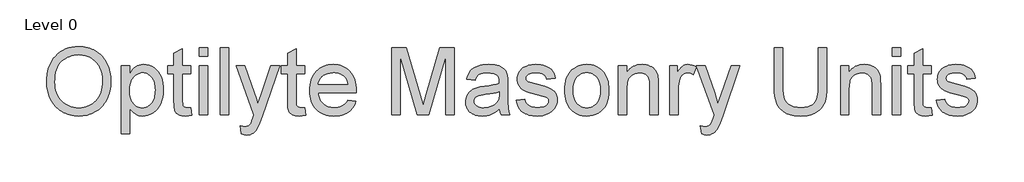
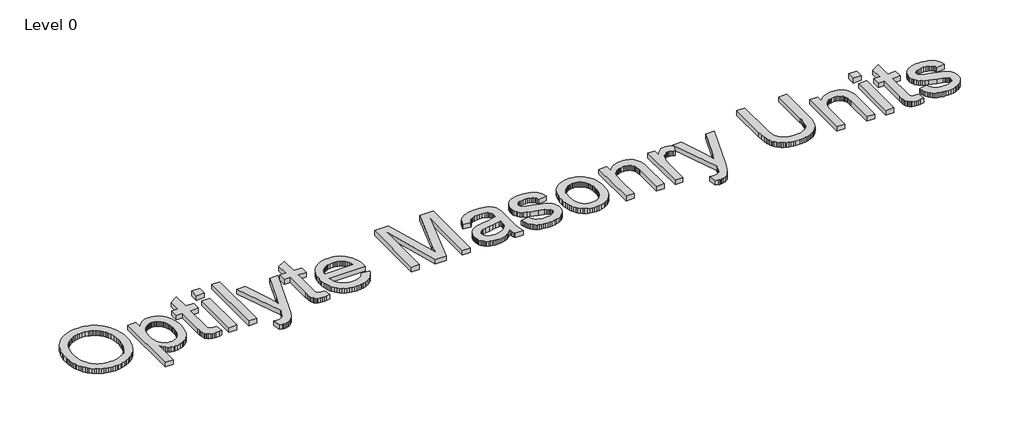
# One storey, part 4 of 4: 1 proxy.
"""IFC4 building model written with IfcOpenShell, lengths in millimetres."""

from ifc_helpers import new_model, si_unit, origin, origin_with_axes, place, context, project, spatial, polyline, outline, extrude, element, save

model = new_model("IFC4")

# Units and contexts
model_context = context("Model", 3, world=origin())
ifc_project = project(units=[si_unit("LENGTHUNIT", "METRE", prefix="MILLI")], contexts=[model_context])

# Site, building, storey
site = spatial("IfcSite", under=ifc_project)
building = spatial("IfcBuilding", under=site)
storey = spatial("IfcBuildingStorey", under=building, Name="Level 0", Elevation=0.0)

# Proxy
placement = place(None, origin())
element("IfcBuildingElementProxy", 1, Name="2000", ObjectType="2000", at=placement, inside=storey, context=model_context, shape_type="SweptSolid", body=[
    extrude(outline(polyline([(-39681.6982349, 28687.2945402), (-39677.6207992, 28805.3982856), (-39665.3884922, 28916.9154042), (-39645.0013139, 29021.8458959), (-39616.4592643, 29120.1897608), (-39579.7623433, 29211.9469989), (-39534.9105511, 29297.1176101), (-39481.9038875, 29375.7015945), (-39420.7423525, 29447.698952), (-39353.1360795, 29512.1089934), (-39280.7952018, 29567.9310292), (-39203.7197193, 29615.1650595), (-39121.9096319, 29653.8110844), (-39035.3649398, 29683.8691037), (-38944.085643, 29705.3391174), (-38848.0717413, 29718.2211257), (-38747.3232349, 29722.5151285), (-38680.6429729, 29720.4988141), (-38615.6205694, 29714.4498711), (-38552.2560244, 29704.3682994), (-38490.5493378, 29690.2540991), (-38430.5005097, 29672.10727), (-38372.10954, 29649.9278123), (-38315.3764288, 29623.7157259), (-38260.3011761, 29593.4710108), (-38207.667904, 29559.6193334), (-38158.2607349, 29522.5863601), (-38112.0796687, 29482.3720908), (-38069.1247055, 29438.9765255), (-38029.3958452, 29392.3996643), (-37992.8930878, 29342.6415072), (-37959.6164334, 29289.702054), (-37929.5658819, 29233.5813049), (-37902.9057257, 29174.8990899), (-37879.8002569, 29114.2752388), (-37860.2494757, 29051.7097516), (-37844.2533819, 28987.2026285), (-37831.8119757, 28920.7538693), (-37822.9252569, 28852.3634741), (-37817.5932257, 28782.0314428), (-37815.8158819, 28709.7577755), (-37817.6865736, 28636.5356937), (-37823.2986485, 28565.2701836), (-37832.6521067, 28495.9612452), (-37845.7469481, 28428.6088785), (-37862.5831728, 28363.2130834), (-37883.1607808, 28299.7738601), (-37907.4797721, 28238.2912084), (-37935.5401466, 28178.7651285), (-37967.0319895, 28121.9946781), (-38001.6453856, 28068.7789152), (-38039.3803351, 28019.1178399), (-38080.2368378, 27973.011452), (-38124.2148939, 27930.4597516), (-38171.3145033, 27891.4627388), (-38221.5356659, 27856.0204134), (-38274.8783819, 27824.1327755), (-38330.3232923, 27795.9043748), (-38386.8510382, 27771.4397608), (-38444.4616195, 27750.7389336), (-38503.1550363, 27733.8018932), (-38562.9312886, 27720.6286395), (-38623.7903764, 27711.2191726), (-38685.7322997, 27705.5734924), (-38748.7570584, 27703.6915991), (-38816.6695125, 27705.77139), (-38882.7598158, 27712.0107627), (-38947.0279683, 27722.4097172), (-39009.4739702, 27736.9682535), (-39070.0978213, 27755.6863716), (-39128.8995216, 27778.5640715), (-39185.8790713, 27805.6013532), (-39241.0364702, 27836.7982167), (-39293.6398709, 27871.5908408), (-39342.9574261, 27909.4154042), (-39388.9891356, 27950.271907), (-39431.7349996, 27994.1603491), (-39471.195018, 28041.0807305), (-39507.3691908, 28091.0330513), (-39540.257518, 28144.0173114), (-39569.8599996, 28200.0335108), (-39596.072086, 28257.9876124), (-39618.7892275, 28316.7855788), (-39638.0114242, 28376.4274102), (-39653.7386761, 28436.9131064), (-39665.970983, 28498.2426675), (-39674.7083452, 28560.4160935), (-39679.9507625, 28623.4333845), (-39681.6982349, 28687.2945402)]), holes=[polyline([(-39436.9923525, 28684.9048344), (-39433.9342758, 28601.5115669), (-39424.7600455, 28522.6736763), (-39409.4696618, 28448.3911625), (-39388.0631246, 28378.6640255), (-39360.5404339, 28313.4922654), (-39326.9015897, 28252.8758822), (-39287.146592, 28196.8148757), (-39241.2754408, 28145.3092461), (-39190.7891701, 28099.1580513), (-39137.1888139, 28059.1603491), (-39080.4743723, 28025.3161395), (-39020.6458452, 27997.6254226), (-38957.7032326, 27976.0881983), (-38891.6465345, 27960.7044667), (-38822.475751, 27951.4742277), (-38750.1908819, 27948.3974814), (-38676.5842068, 27951.5040991), (-38606.3156522, 27960.823952), (-38539.3852179, 27976.3570402), (-38475.792904, 27998.1033638), (-38415.5387105, 28026.0629226), (-38358.6226375, 28060.2357167), (-38305.0446848, 28100.6217461), (-38254.8048525, 28147.2210108), (-38209.2697537, 28199.5331662), (-38169.8060014, 28257.0578674), (-38136.4135956, 28319.7951147), (-38109.0925363, 28387.7449079), (-38087.8428236, 28460.907247), (-38072.6644573, 28539.2821322), (-38063.5574375, 28622.8695632), (-38060.5217643, 28711.6695402), (-38065.7193746, 28823.6571322), (-38081.3122055, 28928.2963785), (-38107.3002569, 29025.5872792), (-38143.683529, 29115.5298344), (-38165.672557, 29157.450503), (-38190.0587588, 29196.9441266), (-38216.8421342, 29234.0107052), (-38246.0226834, 29268.6502388), (-38277.6004063, 29300.8627273), (-38311.5753029, 29330.6481708), (-38347.9473732, 29358.0065692), (-38386.7166172, 29382.9379226), (-38427.3005442, 29405.173389), (-38469.1166632, 29424.4441266), (-38512.1649743, 29440.7501354), (-38556.4454775, 29454.0914152), (-38648.7030602, 29471.8797884), (-38745.8894113, 29477.8092461), (-38815.3925134, 29474.9528008), (-38882.4312312, 29466.3834649), (-38947.0055648, 29452.1012383), (-39009.1155143, 29432.1061211), (-39068.7610795, 29406.3981133), (-39125.9422606, 29374.9772149), (-39180.6590575, 29337.8434258), (-39232.9114702, 29294.9967461), (-39280.742927, 29245.4738256), (-39322.1968562, 29188.3113141), (-39357.2732579, 29123.5092117), (-39385.9721319, 29051.0675182), (-39408.2934784, 28970.9862337), (-39424.2372974, 28883.2653583), (-39433.8035887, 28787.9048918), (-39436.9923525, 28684.9048344)])]), origin_with_axes(), (0.0, 0.0, 1.0), 150.0),
    extrude(outline(polyline([(-37509.933529, 27183.6915991), (-37509.933529, 29171.9268932), (-37265.2276466, 29171.9268932), (-37265.2276466, 28932.0004226), (-37226.5144113, 28995.4023068), (-37185.4114702, 29050.3506064), (-37141.9188231, 29096.8453215), (-37096.0364702, 29134.886452), (-37046.4500731, 29164.473998), (-36991.8452937, 29185.6079594), (-36932.2221319, 29198.2883362), (-36867.5805878, 29202.5151285), (-36782.2382165, 29196.6006064), (-36702.0934555, 29178.8570402), (-36663.9701788, 29165.5493656), (-36627.1463047, 29149.2844299), (-36591.6218332, 29130.0622333), (-36557.3967643, 29107.8827755), (-36524.8519573, 29083.0148987), (-36494.3682716, 29055.7274447), (-36439.5842643, 28993.8938049), (-36393.0447422, 28922.3818564), (-36354.7497055, 28841.1915991), (-36324.8485106, 28753.101066), (-36303.4905143, 28660.8882902), (-36290.6757165, 28564.5532719), (-36286.4041172, 28464.0960108), (-36291.228336, 28356.6936671), (-36305.7009922, 28254.8175182), (-36329.822086, 28158.4675641), (-36363.5916172, 28067.6438049), (-36406.5465805, 27984.7210108), (-36431.294972, 27947.1130145), (-36458.2239702, 27912.073952), (-36487.333575, 27879.6038233), (-36518.6237863, 27849.7026285), (-36552.0946044, 27822.3703674), (-36587.746029, 27797.6070402), (-36662.2003029, 27756.5190347), (-36738.5962128, 27727.1704594), (-36816.9337588, 27709.5613141), (-36897.2129408, 27703.6915991), (-36954.9691448, 27707.6196781), (-37009.7083452, 27719.4039152), (-37061.4305419, 27739.0443105), (-37110.1357349, 27766.5408638), (-37155.2264977, 27800.0415531), (-37196.105404, 27837.6943564), (-37232.7724536, 27879.4992737), (-37265.2276466, 27925.4563049), (-37265.2276466, 27183.6915991), (-37509.933529, 27183.6915991)]), holes=[polyline([(-37265.2276466, 28441.6327755), (-37263.5735221, 28380.6056616), (-37258.6111485, 28323.7007902), (-37250.3405258, 28270.9181616), (-37238.761654, 28222.2577755), (-37223.8745331, 28177.7196322), (-37205.6791632, 28137.3037314), (-37184.1755442, 28101.0100733), (-37159.3636761, 28068.8386579), (-37132.1919734, 28040.6102572), (-37103.6088507, 28016.1456432), (-37073.6143079, 27995.444816), (-37042.2083452, 27978.5077755), (-37009.3909624, 27965.3345219), (-36975.1621595, 27955.9250549), (-36939.5219366, 27950.2793748), (-36902.4702937, 27948.3974814), (-36864.9183061, 27950.3465853), (-36828.7329316, 27956.1938969), (-36793.9141701, 27965.9394162), (-36760.4620216, 27979.5831432), (-36728.3764863, 27997.1250779), (-36697.6575639, 28018.5652204), (-36668.3052546, 28043.9035706), (-36640.3195584, 28073.1401285), (-36614.7235681, 28106.4690577), (-36592.5403764, 28144.0845219), (-36573.7699835, 28185.9865209), (-36558.4123893, 28232.1750549), (-36546.4675938, 28282.6501239), (-36537.935597, 28337.4117277), (-36532.8163989, 28396.4598665), (-36531.1099996, 28459.7945402), (-36532.7753259, 28520.2092921), (-36537.7713047, 28576.7109005), (-36546.0979362, 28629.2993656), (-36557.7552202, 28677.9746873), (-36572.7431568, 28722.7368656), (-36591.0617459, 28763.5859005), (-36612.7109876, 28800.5217921), (-36637.6908819, 28833.5445402), (-36664.9858038, 28862.6690807), (-36693.5801283, 28887.9103491), (-36723.4738553, 28909.2683454), (-36754.6669849, 28926.7430697), (-36787.159517, 28940.3345219), (-36820.9514518, 28950.042702), (-36856.0427891, 28955.8676101), (-36892.433529, 28957.8092461), (-36928.5890322, 28955.7443909), (-36963.6915713, 28949.5498252), (-36997.7411462, 28939.225549), (-37030.7377569, 28924.7715623), (-37062.6814035, 28906.1878651), (-37093.572086, 28883.4744575), (-37123.4098043, 28856.6313394), (-37152.1945584, 28825.6585108), (-37178.6866885, 28790.7501354), (-37201.6465345, 28752.1003766), (-37221.0740966, 28709.7092346), (-37236.9693746, 28663.5767094), (-37249.3323686, 28613.7028008), (-37258.1630786, 28560.087509), (-37263.4615046, 28502.7308339), (-37265.2276466, 28441.6327755)])]), origin_with_axes(), (0.0, 0.0, 1.0), 150.0),
    extrude(outline(polyline([(-35491.1099996, 27938.3607167), (-35460.5217643, 27727.1107167), (-35557.4243378, 27709.5463785), (-35643.5732349, 27703.6915991), (-35706.0341724, 27706.2306616), (-35761.027279, 27713.8478491), (-35808.5525547, 27726.5431616), (-35848.6099996, 27744.3165991), (-35882.2451099, 27766.2122792), (-35910.5033819, 27791.2743197), (-35933.3848158, 27819.5027204), (-35950.8894113, 27850.8974814), (-35963.8535658, 27892.9861763), (-35973.1136761, 27953.2963785), (-35978.6697422, 28031.828088), (-35980.5217643, 28128.5813049), (-35980.5217643, 28927.2210108), (-36164.0511761, 28927.2210108), (-36164.0511761, 29171.9268932), (-35980.5217643, 29171.9268932), (-35980.5217643, 29521.3018932), (-35735.8158819, 29665.1621873), (-35735.8158819, 29171.9268932), (-35491.1099996, 29171.9268932), (-35491.1099996, 28927.2210108), (-35735.8158819, 28927.2210108), (-35735.8158819, 28135.7504226), (-35732.589779, 28055.2173344), (-35728.5571503, 28028.0344299), (-35722.9114702, 28009.573952), (-35706.0043011, 27984.3028123), (-35681.0916172, 27964.886452), (-35645.7837128, 27952.5197241), (-35597.6908819, 27948.3974814), (-35550.9721319, 27945.8882902), (-35491.1099996, 27938.3607167)])), origin_with_axes(), (0.0, 0.0, 1.0), 150.0),
    extrude(outline(polyline([(-35246.4041172, 27734.2798344), (-35246.4041172, 29171.9268932), (-35001.6982349, 29171.9268932), (-35001.6982349, 27734.2798344), (-35246.4041172, 27734.2798344)])), origin_with_axes(), (0.0, 0.0, 1.0), 150.0),
    extrude(outline(polyline([(-35246.4041172, 29447.2210108), (-35246.4041172, 29691.9268932), (-35001.6982349, 29691.9268932), (-35001.6982349, 29447.2210108), (-35246.4041172, 29447.2210108)])), origin_with_axes(), (0.0, 0.0, 1.0), 150.0),
    extrude(outline(polyline([(-34634.6394113, 27734.2798344), (-34634.6394113, 29691.9268932), (-34389.933529, 29691.9268932), (-34389.933529, 27734.2798344), (-34634.6394113, 27734.2798344)])), origin_with_axes(), (0.0, 0.0, 1.0), 150.0),
    extrude(outline(polyline([(-34022.8747055, 27183.6915991), (-34053.4629408, 27419.3165991), (-33986.7901466, 27403.1860844), (-33929.1982349, 27397.8092461), (-33894.6968562, 27399.4969759), (-33863.839779, 27404.5601652), (-33836.6270033, 27412.9988141), (-33813.058529, 27424.8129226), (-33792.2979591, 27439.6440347), (-33773.5088966, 27457.1336947), (-33741.8452937, 27500.0886579), (-33714.8416172, 27563.2963785), (-33674.933529, 27680.2724814), (-33655.8158819, 27739.5371873), (-34175.8158819, 29171.9268932), (-33917.7276466, 29171.9268932), (-33641.9555878, 28373.7651285), (-33591.1743378, 28217.9563049), (-33545.8894113, 28054.5004226), (-33449.8232349, 28336.4857167), (-33166.4041172, 29171.9268932), (-32910.2276466, 29171.9268932), (-33410.6320584, 27699.8680697), (-33484.9519113, 27504.1511579), (-33540.6320584, 27380.6033638), (-33572.8034738, 27325.7297424), (-33607.1853672, 27278.6824079), (-33643.7777386, 27239.4613601), (-33682.5805878, 27208.0665991), (-33724.4303121, 27184.0201836), (-33770.1633084, 27166.8441726), (-33819.7795768, 27156.538566), (-33873.2791172, 27153.1033638), (-33907.7207533, 27155.0151285), (-33944.1338966, 27160.7504226), (-34022.8747055, 27183.6915991)])), origin_with_axes(), (0.0, 0.0, 1.0), 150.0),
    extrude(outline(polyline([(-32187.5805878, 27938.3607167), (-32156.9923525, 27727.1107167), (-32253.8949261, 27709.5463785), (-32340.0438231, 27703.6915991), (-32402.5047606, 27706.2306616), (-32457.4978672, 27713.8478491), (-32505.023143, 27726.5431616), (-32545.0805878, 27744.3165991), (-32578.7156981, 27766.2122792), (-32606.9739702, 27791.2743197), (-32629.855404, 27819.5027204), (-32647.3599996, 27850.8974814), (-32660.324154, 27892.9861763), (-32669.5842643, 27953.2963785), (-32675.1403305, 28031.828088), (-32676.9923525, 28128.5813049), (-32676.9923525, 28927.2210108), (-32860.5217643, 28927.2210108), (-32860.5217643, 29171.9268932), (-32676.9923525, 29171.9268932), (-32676.9923525, 29521.3018932), (-32432.2864702, 29665.1621873), (-32432.2864702, 29171.9268932), (-32187.5805878, 29171.9268932), (-32187.5805878, 28927.2210108), (-32432.2864702, 28927.2210108), (-32432.2864702, 28135.7504226), (-32429.0603672, 28055.2173344), (-32425.0277386, 28028.0344299), (-32419.3820584, 28009.573952), (-32402.4748893, 27984.3028123), (-32377.5622055, 27964.886452), (-32342.2543011, 27952.5197241), (-32294.1614702, 27948.3974814), (-32247.4427202, 27945.8882902), (-32187.5805878, 27938.3607167)])), origin_with_axes(), (0.0, 0.0, 1.0), 150.0),
    extrude(outline(polyline([(-30936.3305878, 28162.5151285), (-30696.4041172, 28131.9268932), (-30713.1880671, 28082.4525136), (-30733.1906522, 28035.8308454), (-30756.4118723, 27992.0618886), (-30782.8517275, 27951.1456432), (-30812.5102179, 27913.0821092), (-30845.3873433, 27877.8712866), (-30881.4831039, 27845.5131754), (-30920.7974996, 27816.0077755), (-30963.1363668, 27789.6836717), (-31008.3055419, 27766.8694483), (-31056.3050249, 27747.5651055), (-31107.1348158, 27731.7706432), (-31160.7949146, 27719.4860614), (-31217.2853213, 27710.7113601), (-31276.6060359, 27705.4465393), (-31338.7570584, 27703.6915991), (-31416.7436163, 27706.7198045), (-31490.5929959, 27715.8044208), (-31560.3051972, 27730.9454479), (-31625.8802202, 27752.1428858), (-31687.3180648, 27779.3967346), (-31744.6187312, 27812.7069943), (-31797.7822193, 27852.0736648), (-31846.808529, 27897.4967461), (-31890.831392, 27948.3862797), (-31928.98454, 28004.1523068), (-31961.2679729, 28064.7948275), (-31987.6816908, 28130.3138417), (-32008.2256935, 28200.7093495), (-32022.8999812, 28275.9813509), (-32031.7045538, 28356.1298458), (-32034.6394113, 28441.1548344), (-32031.6746825, 28529.0736073), (-32022.7804959, 28611.929191), (-32007.9568516, 28689.7215853), (-31987.2037496, 28762.4507902), (-31960.5211898, 28830.1168059), (-31927.9091724, 28892.7196322), (-31889.3676972, 28950.2592691), (-31844.8967643, 29002.7357167), (-31795.6986944, 29049.5590163), (-31742.9758084, 29090.1392094), (-31686.7281062, 29124.4762958), (-31626.9555878, 29152.5702755), (-31563.6582533, 29174.4211487), (-31496.8361025, 29190.0289152), (-31426.4891356, 29199.3935752), (-31352.6173525, 29202.5151285), (-31281.1614127, 29199.401043), (-31213.0435933, 29190.0587866), (-31148.2638943, 29174.4883592), (-31086.8223158, 29152.6897608), (-31028.7188576, 29124.6629915), (-30973.9535198, 29090.4080513), (-30922.5263024, 29049.9249401), (-30874.4372055, 29003.2136579), (-30830.918421, 28950.8566956), (-30793.2021411, 28893.4365439), (-30761.2883659, 28830.9532029), (-30735.1770952, 28763.4066726), (-30714.8683291, 28690.7969529), (-30700.3620676, 28613.1240439), (-30691.6583107, 28530.3879456), (-30688.7570584, 28442.5886579), (-30690.1908819, 28376.6327755), (-31789.933529, 28376.6327755), (-31784.5977638, 28326.2921276), (-31775.759586, 28278.9834189), (-31763.4189954, 28234.7066496), (-31747.5759922, 28193.4618197), (-31728.2305763, 28155.248929), (-31705.3827477, 28120.0679777), (-31679.0325065, 28087.9189658), (-31649.1798525, 28058.8018932), (-31616.6014403, 28032.9258592), (-31582.0739242, 28010.499963), (-31545.5973043, 27991.5242048), (-31507.1715805, 27975.9985844), (-31466.7967528, 27963.9231018), (-31424.4728213, 27955.2977572), (-31380.1997859, 27950.1225504), (-31333.9776466, 27948.3974814), (-31266.2892275, 27951.593713), (-31203.7386761, 27961.1824079), (-31146.3259922, 27977.163566), (-31094.0511761, 27999.5371873), (-31046.9142275, 28028.9006983), (-31004.9151466, 28065.8515255), (-30968.0539334, 28110.3896689), (-30936.3305878, 28162.5151285)]), holes=[polyline([(-31789.933529, 28621.3386579), (-30933.4629408, 28621.3386579), (-30946.038768, 28690.5803858), (-30966.5603672, 28750.6217461), (-30995.0277386, 28801.4627388), (-31031.4408819, 28843.1033638), (-31063.6571044, 28869.9875549), (-31098.1734187, 28893.2871873), (-31134.989825, 28913.0022608), (-31174.1063231, 28929.1327755), (-31215.5229132, 28941.6787314), (-31259.2395952, 28950.6401285), (-31305.2563691, 28956.0169667), (-31353.5732349, 28957.8092461), (-31439.6175823, 28952.0888877), (-31518.5226834, 28934.9278123), (-31555.2980166, 28922.0570058), (-31590.2885382, 28906.32602), (-31623.4942482, 28887.734855), (-31654.9151466, 28866.2835108), (-31683.7372399, 28842.4349929), (-31709.1465345, 28816.6523068), (-31731.1430304, 28788.9354525), (-31749.7267275, 28759.2844299), (-31764.897626, 28727.6992392), (-31776.6557257, 28694.1798803), (-31785.0010267, 28658.7263532), (-31789.933529, 28621.3386579)])]), origin_with_axes(), (0.0, 0.0, 1.0), 150.0),
    extrude(outline(polyline([(-29648.7570584, 27734.2798344), (-29648.7570584, 29691.9268932), (-29227.6908819, 29691.9268932), (-28827.1761761, 28312.1107167), (-28746.4041172, 28023.9121873), (-28658.9408819, 28336.0077755), (-28265.1173525, 29691.9268932), (-27844.0511761, 29691.9268932), (-27844.0511761, 27734.2798344), (-28088.7570584, 27734.2798344), (-28088.7570584, 29447.2210108), (-28580.558529, 27734.2798344), (-28912.2497055, 27734.2798344), (-29404.0511761, 29447.2210108), (-29404.0511761, 27734.2798344), (-29648.7570584, 27734.2798344)])), origin_with_axes(), (0.0, 0.0, 1.0), 150.0),
    extrude(outline(polyline([(-26528.7570584, 27917.8092461), (-26586.7821044, 27863.3538233), (-26645.6734187, 27817.5610844), (-26705.4310014, 27780.4310292), (-26766.0548525, 27751.9636579), (-26828.2320125, 27730.8446322), (-26892.6495216, 27715.7596138), (-26959.3073801, 27706.7086027), (-27028.2055878, 27703.6915991), (-27084.3599421, 27705.506282), (-27137.1612404, 27710.9503307), (-27186.6094826, 27720.0237452), (-27232.7046687, 27732.7265255), (-27275.4467988, 27749.0586717), (-27314.8358727, 27769.0201836), (-27350.8718907, 27792.6110614), (-27383.5548525, 27819.8313049), (-27412.6233842, 27849.8743886), (-27437.8161117, 27881.9337866), (-27459.133035, 27916.0094989), (-27476.574154, 27952.1015255), (-27490.1394688, 27990.2098665), (-27499.8289794, 28030.3345219), (-27505.6426857, 28072.4754915), (-27507.5805878, 28116.6327755), (-27504.6531981, 28168.5192645), (-27495.871029, 28218.0757902), (-27481.2340805, 28265.3023527), (-27460.7423525, 28310.198952), (-27435.4861485, 28351.7798344), (-27406.5557716, 28389.0592461), (-27373.951222, 28422.0371873), (-27337.6724996, 28450.7136579), (-27298.3767735, 28475.6263417), (-27256.7212128, 28497.3129226), (-27212.7058176, 28515.7734005), (-27166.3305878, 28531.0077755), (-27078.2699261, 28549.7669667), (-26954.6026466, 28567.8092461), (-26820.0024628, 28586.3294667), (-26704.4004408, 28606.5224814), (-26607.7965805, 28628.3882902), (-26530.1908819, 28651.9268932), (-26528.7570584, 28706.4121873), (-26532.968915, 28765.7366358), (-26545.6044849, 28815.6217461), (-26566.663768, 28856.0675182), (-26596.1467643, 28887.073952), (-26620.2379867, 28903.6525366), (-26647.1072422, 28918.0206432), (-26709.1798525, 28940.1254226), (-26782.3645952, 28953.3882902), (-26866.6614702, 28957.8092461), (-26945.0438231, 28954.8669208), (-27012.433529, 28946.0399447), (-27068.8305878, 28931.3283178), (-27114.2349996, 28910.7320402), (-27151.5442827, 28882.6380605), (-27183.6559555, 28845.433327), (-27210.570018, 28799.1178399), (-27232.2864702, 28743.6915991), (-27476.9923525, 28774.2798344), (-27458.3675823, 28844.7761579), (-27434.5153305, 28908.1033638), (-27405.435597, 28964.261452), (-27371.1283819, 29013.2504226), (-27330.1150547, 29056.0560292), (-27280.9169849, 29093.6640255), (-27223.5341724, 29126.0744116), (-27157.9666172, 29153.2871873), (-27085.5435933, 29174.8244116), (-27007.5943746, 29190.2081432), (-26924.118961, 29199.4383822), (-26835.1173525, 29202.5151285), (-26748.1171227, 29199.796838), (-26669.6899628, 29191.6419667), (-26599.8358727, 29178.0505145), (-26538.5548525, 29159.0224814), (-26485.3390897, 29135.8871413), (-26439.6807716, 29109.9737682), (-26401.5798985, 29081.2823619), (-26371.0364702, 29049.8129226), (-26346.273143, 29014.7887958), (-26325.5125731, 28975.433327), (-26308.7547606, 28931.7465163), (-26295.9997055, 28883.7283638), (-26287.0383084, 28799.1327755), (-26284.0511761, 28669.6107167), (-26284.0511761, 28365.1621873), (-26280.9445584, 28099.964577), (-26271.6247055, 27940.0335108), (-26253.2239702, 27834.9461947), (-26239.542904, 27784.060395), (-26222.8747055, 27734.2798344), (-26467.5805878, 27734.2798344), (-26489.3269113, 27775.1438049), (-26506.7717643, 27819.3533638), (-26519.9151466, 27866.9085108), (-26528.7570584, 27917.8092461)]), holes=[polyline([(-26528.7570584, 28407.2210108), (-26602.7184555, 28386.0422424), (-26693.1688231, 28366.4765255), (-26800.1081613, 28348.5238601), (-26923.5364702, 28332.1842461), (-27050.4895952, 28313.4250549), (-27134.0695584, 28292.5151285), (-27163.2389058, 28280.2380145), (-27188.8535658, 28265.3919667), (-27210.9135382, 28247.9769851), (-27229.4188231, 28227.9930697), (-27244.0557716, 28206.1571322), (-27254.5107349, 28183.1860844), (-27260.7837128, 28159.0799263), (-27262.8747055, 28133.8386579), (-27258.3193286, 28095.812463), (-27244.6531981, 28061.0721138), (-27221.8763139, 28029.6176101), (-27189.9886761, 28001.448952), (-27149.2889977, 27978.2389336), (-27100.0759922, 27961.6603491), (-27042.3496595, 27951.7131983), (-26976.1099996, 27948.3974814), (-26908.4813231, 27952.0567185), (-26844.6761761, 27963.0344299), (-26784.6945584, 27981.3306156), (-26728.5364702, 28006.9452755), (-26677.8747055, 28037.7575458), (-26634.3820584, 28071.6465623), (-26598.058529, 28108.6123252), (-26568.9041172, 28148.6548344), (-26551.9670768, 28184.5004226), (-26539.8691908, 28227.9930697), (-26532.6104591, 28279.1327755), (-26530.1908819, 28337.9195402), (-26528.7570584, 28407.2210108)])]), origin_with_axes(), (0.0, 0.0, 1.0), 150.0),
    extrude(outline(polyline([(-26039.3452937, 28162.5151285), (-25794.6394113, 28193.1033638), (-25779.8531062, 28137.3037314), (-25756.0456613, 28088.4342461), (-25723.2170768, 28046.4949079), (-25681.3673525, 28011.4857167), (-25630.3770033, 27983.8846138), (-25570.1265437, 27964.1695402), (-25500.6159738, 27952.3404961), (-25421.8452937, 27948.3974814), (-25343.1642275, 27952.0119116), (-25275.3563231, 27962.855202), (-25218.4215805, 27980.9273527), (-25172.3599996, 28006.2283638), (-25136.8131246, 28036.3984005), (-25111.4224996, 28069.0776285), (-25096.1881246, 28104.2660476), (-25091.1099996, 28141.9636579), (-25096.2179959, 28175.0013417), (-25111.5419849, 28204.3349814), (-25137.0819665, 28229.964577), (-25172.8379408, 28251.8901285), (-25210.0874812, 28266.4673344), (-25264.4831613, 28282.9563049), (-25424.7129408, 28321.6695402), (-25648.0309555, 28386.2513417), (-25730.3861944, 28415.0024906), (-25793.2055878, 28441.3938049), (-25843.0458911, 28469.0397149), (-25886.4638599, 28501.5546505), (-25923.4594941, 28538.9386119), (-25954.0327937, 28581.1915991), (-25977.9746595, 28627.0440807), (-25995.0759922, 28675.2265255), (-26005.3367919, 28725.7389336), (-26008.7570584, 28778.5813049), (-26006.0088966, 28826.8981708), (-25997.7644113, 28873.3928858), (-25984.0236025, 28918.0654502), (-25964.7864702, 28960.9158638), (-25940.7997974, 29001.0778583), (-25912.8103672, 29037.6851652), (-25880.8181797, 29070.7377847), (-25844.8232349, 29100.2357167), (-25813.5927661, 29120.712509), (-25777.2543011, 29139.6061211), (-25735.8078397, 29156.9165531), (-25689.2533819, 29172.6438049), (-25639.263722, 29185.712509), (-25587.511654, 29195.0472976), (-25533.9971779, 29200.6481708), (-25478.7202937, 29202.5151285), (-25396.48454, 29199.5130605), (-25319.4463966, 29190.5068564), (-25247.6058636, 29175.4965163), (-25180.9629408, 29154.4820402), (-25121.1008084, 29128.3446322), (-25069.6026466, 29097.9654961), (-25026.4684555, 29063.3446322), (-24991.6982349, 29024.4820402), (-24963.4997055, 28980.0185752), (-24940.0805878, 28928.5950917), (-24921.4408819, 28870.2115899), (-24907.5805878, 28804.8680697), (-25152.2864702, 28774.2798344), (-25163.951222, 28815.1587406), (-25183.1734187, 28851.2881064), (-25209.9530602, 28882.6679318), (-25244.2901466, 28909.2982167), (-25286.3340345, 28930.5217921), (-25336.2340805, 28945.6814888), (-25393.9902845, 28954.7773068), (-25459.6026466, 28957.8092461), (-25535.714779, 28954.9117277), (-25600.1173525, 28946.2191726), (-25652.8103672, 28931.7315807), (-25693.7938231, 28911.448952), (-25724.531415, 28887.3129226), (-25746.4868378, 28861.2651285), (-25759.6600915, 28833.3055697), (-25764.0511761, 28803.4342461), (-25762.2290253, 28784.1074998), (-25756.7625731, 28765.7963785), (-25747.6518194, 28748.5008822), (-25734.8967643, 28732.2210108), (-25718.2584371, 28716.4788233), (-25697.4978672, 28702.230202), (-25643.6099996, 28678.2136579), (-25432.8379408, 28626.1180697), (-25216.6293011, 28562.1934373), (-25135.9916632, 28534.9806616), (-25073.6651466, 28510.9342461), (-25023.3618378, 28485.9319483), (-24978.7938231, 28455.8515255), (-24939.9611025, 28420.6929777), (-24906.8636761, 28380.4563049), (-24880.4126191, 28335.0817645), (-24861.5190069, 28284.5096138), (-24850.1828397, 28228.7398527), (-24846.4041172, 28167.7724814), (-24850.8400088, 28106.5362682), (-24864.1476834, 28047.0923344), (-24886.3271411, 27989.4406799), (-24917.3783819, 27933.5813049), (-24956.7935933, 27881.739623), (-25004.0649628, 27836.1410476), (-25059.1924904, 27796.7855788), (-25122.1761761, 27763.6732167), (-25191.2984187, 27737.431259), (-25264.8416172, 27718.6870035), (-25342.8057716, 27707.4404502), (-25425.1908819, 27703.6915991), (-25493.1257395, 27705.4988141), (-25556.8935474, 27710.9204594), (-25616.4943057, 27719.9565347), (-25671.9280143, 27732.6070402), (-25723.1946733, 27748.8719759), (-25770.2942827, 27768.7513417), (-25813.2268424, 27792.2451377), (-25851.9923525, 27819.3533638), (-25887.0164794, 27850.0162774), (-25918.7248893, 27884.1741358), (-25947.1175823, 27921.8269391), (-25972.1945584, 27962.9746873), (-25993.9558176, 28007.6173803), (-26012.4013599, 28055.7550182), (-26027.5311852, 28107.3876009), (-26039.3452937, 28162.5151285)])), origin_with_axes(), (0.0, 0.0, 1.0), 150.0),
    extrude(outline(polyline([(-24632.2864702, 28453.1033638), (-24628.9782211, 28549.4159787), (-24619.0534738, 28639.2913233), (-24602.5122284, 28722.7293978), (-24579.3544849, 28799.730202), (-24549.5802432, 28870.293736), (-24513.1895033, 28934.4199998), (-24470.1822652, 28992.1089934), (-24420.558529, 29043.3607167), (-24375.1391816, 29080.662532), (-24327.3002569, 29112.9907719), (-24277.0417551, 29140.3454364), (-24224.3636761, 29162.7265255), (-24169.2660198, 29180.1340393), (-24111.7487863, 29192.5679777), (-24051.8119757, 29200.0283408), (-23989.4555878, 29202.5151285), (-23920.3370791, 29199.4869231), (-23854.4521411, 29190.4023068), (-23791.8007739, 29175.2612797), (-23732.3829775, 29154.0638417), (-23676.1987519, 29126.8099929), (-23623.248097, 29093.4997333), (-23573.5310129, 29054.1330628), (-23527.0474996, 29008.7099814), (-23484.9849421, 28957.947401), (-23448.5307257, 28902.5622333), (-23417.6848502, 28842.5544782), (-23392.4473158, 28777.9241358), (-23372.8181223, 28708.6712061), (-23358.7972698, 28634.7956891), (-23350.3847583, 28556.2975848), (-23347.5805878, 28473.1768932), (-23352.5392275, 28342.1911395), (-23367.4151466, 28225.9618197), (-23378.572086, 28173.3808224), (-23392.2083452, 28124.4889336), (-23408.3239242, 28079.2861533), (-23426.9188231, 28037.7724814), (-23471.1134463, 27962.8701377), (-23524.3590805, 27896.839577), (-23586.6557257, 27839.6807994), (-23658.0033819, 27791.3938049), (-23735.6240161, 27753.0240899), (-23816.7395952, 27725.6171505), (-23901.3501191, 27709.1729869), (-23989.4555878, 27703.6915991), (-24059.6643999, 27706.7086027), (-24126.4305419, 27715.7596138), (-24189.7540138, 27730.8446322), (-24249.6348158, 27751.9636579), (-24306.0729477, 27779.116691), (-24359.0684095, 27812.3037314), (-24408.6212013, 27851.5247792), (-24454.7313231, 27896.7798344), (-24496.3458107, 27947.710441), (-24532.4117, 28003.9581432), (-24562.9289909, 28065.522941), (-24587.8976834, 28132.4048344), (-24607.3177776, 28204.6038233), (-24621.1892735, 28282.1199079), (-24629.512171, 28364.953088), (-24632.2864702, 28453.1033638)]), holes=[polyline([(-24387.5805878, 28453.5813049), (-24385.8107119, 28392.244276), (-24380.5010841, 28334.8876009), (-24371.6517045, 28281.5112797), (-24359.2625731, 28232.1153123), (-24343.3336898, 28186.6996988), (-24323.8650547, 28145.2644391), (-24300.8566678, 28107.8095333), (-24274.308529, 28074.3349814), (-24245.0794389, 28044.8183799), (-24214.0281981, 28019.2373252), (-24181.1548066, 27997.5918174), (-24146.4592643, 27979.8818564), (-24109.9415713, 27966.1074424), (-24071.6017275, 27956.2685752), (-24031.439733, 27950.3652549), (-23989.4555878, 27948.3974814), (-23947.6954775, 27950.3764566), (-23907.7276466, 27956.3133822), (-23869.5520952, 27966.2082581), (-23833.1688231, 27980.0610844), (-23798.5778305, 27997.871861), (-23765.7791172, 28019.640588), (-23734.7726834, 28045.3672654), (-23705.558529, 28075.0518932), (-23679.0103902, 28108.7915531), (-23656.0020033, 28146.683327), (-23636.5333682, 28188.7272149), (-23620.6044849, 28234.9232167), (-23608.2153534, 28285.2713325), (-23599.3659738, 28339.7715623), (-23594.0563461, 28398.423906), (-23592.2864702, 28461.2283638), (-23594.0675478, 28520.5490784), (-23599.4107808, 28576.158281), (-23608.3161692, 28628.0559718), (-23620.7837128, 28676.2421505), (-23636.8134118, 28720.7168174), (-23656.4052661, 28761.4799722), (-23679.5592758, 28798.5316151), (-23706.2754408, 28831.8717461), (-23735.6352179, 28861.3883477), (-23766.7200639, 28886.9694024), (-23799.5299789, 28908.6149102), (-23834.0649628, 28926.3248711), (-23870.3250157, 28940.0992852), (-23908.3101375, 28949.9381524), (-23948.0203282, 28955.8414727), (-23989.4555878, 28957.8092461), (-24031.439733, 28955.8489405), (-24071.6017275, 28949.9680237), (-24109.9415713, 28940.1664957), (-24146.4592643, 28926.4443564), (-24181.1548066, 28908.801606), (-24214.0281981, 28887.2382443), (-24245.0794389, 28861.7542714), (-24274.308529, 28832.3496873), (-24300.8566678, 28798.9871528), (-24323.8650547, 28761.6293288), (-24343.3336898, 28720.2762153), (-24359.2625731, 28674.9278123), (-24371.6517045, 28625.5841197), (-24380.5010841, 28572.2451377), (-24385.8107119, 28514.9108661), (-24387.5805878, 28453.5813049)])]), origin_with_axes(), (0.0, 0.0, 1.0), 150.0),
    extrude(outline(polyline([(-23072.2864702, 27734.2798344), (-23072.2864702, 29171.9268932), (-22827.5805878, 29171.9268932), (-22827.5805878, 28971.1915991), (-22787.2094941, 29025.4080513), (-22742.5668011, 29072.3956432), (-22693.6525088, 29112.1543748), (-22640.4666172, 29144.6842461), (-22583.0091264, 29169.9852572), (-22521.2800363, 29188.0574079), (-22455.279347, 29198.9006983), (-22385.0070584, 29202.5151285), (-22323.427325, 29199.6026744), (-22264.386654, 29190.8653123), (-22207.8850455, 29176.3030421), (-22153.9224996, 29155.9158638), (-22104.5452018, 29130.7940807), (-22061.7993378, 29102.0279961), (-22025.6849077, 29069.6176101), (-21996.2019113, 29033.5629226), (-21971.9912036, 28993.9087406), (-21951.6936393, 28950.6998711), (-21935.3092183, 28903.9363141), (-21922.8379408, 28853.6180697), (-21913.1596319, 28760.7779961), (-21909.933529, 28617.0371873), (-21909.933529, 27734.2798344), (-22154.6394113, 27734.2798344), (-22154.6394113, 28584.0592461), (-22156.4018194, 28651.8970219), (-22161.6890437, 28710.5941726), (-22170.5010841, 28760.1506983), (-22182.8379408, 28800.5665991), (-22199.6405602, 28834.6049722), (-22221.8498893, 28865.0289152), (-22249.4659279, 28891.8384281), (-22282.4886761, 28915.0335108), (-22319.7830235, 28933.747895), (-22360.2138599, 28947.1153123), (-22403.7811852, 28955.1357627), (-22450.4849996, 28957.8092461), (-22524.7899169, 28951.8051101), (-22559.9596664, 28944.2999401), (-22593.8076099, 28933.792702), (-22626.3337473, 28920.2833959), (-22657.5380786, 28903.7720219), (-22687.4206039, 28884.2585798), (-22715.9813231, 28861.7430697), (-22742.1374008, 28835.0306386), (-22764.8060014, 28802.9264336), (-22783.987125, 28765.4304548), (-22799.6807716, 28722.542702), (-22811.8869412, 28674.2631754), (-22820.6056338, 28620.5918748), (-22825.8368493, 28561.5288004), (-22827.5805878, 28497.073952), (-22827.5805878, 27734.2798344), (-23072.2864702, 27734.2798344)])), origin_with_axes(), (0.0, 0.0, 1.0), 150.0),
    extrude(outline(polyline([(-21573.4629408, 27734.2798344), (-21573.4629408, 29171.9268932), (-21359.3452937, 29171.9268932), (-21359.3452937, 28959.2430697), (-21319.0190069, 29027.230202), (-21280.246029, 29082.5518932), (-21243.0263599, 29125.2081432), (-21207.3599996, 29155.198952), (-21171.6338966, 29175.8997792), (-21134.2349996, 29190.6860844), (-21095.1633084, 29199.5578674), (-21054.4188231, 29202.5151285), (-20993.7202937, 29197.7954594), (-20932.5438231, 29183.636452), (-20870.8894113, 29160.0381064), (-20808.7570584, 29127.0004226), (-20890.4849996, 28907.6254226), (-20933.4997055, 28929.5808454), (-20976.5144113, 28945.2632902), (-21019.5291172, 28954.6727572), (-21062.5438231, 28957.8092461), (-21100.0472698, 28954.7922424), (-21135.6090805, 28945.7412314), (-21169.2292551, 28930.656213), (-21200.9077937, 28909.5371873), (-21229.4498433, 28883.0711947), (-21253.6605511, 28851.9452755), (-21273.5399169, 28816.1594299), (-21289.0879408, 28775.7136579), (-21306.4431797, 28708.9213785), (-21318.839779, 28639.0224814), (-21326.2777386, 28566.0169667), (-21328.7570584, 28489.9048344), (-21328.7570584, 27734.2798344), (-21573.4629408, 27734.2798344)])), origin_with_axes(), (0.0, 0.0, 1.0), 150.0),
    extrude(outline(polyline([(-20655.8158819, 27183.6915991), (-20686.4041172, 27419.3165991), (-20619.7313231, 27403.1860844), (-20562.1394113, 27397.8092461), (-20527.6380327, 27399.4969759), (-20496.7809555, 27404.5601652), (-20469.5681797, 27412.9988141), (-20445.9997055, 27424.8129226), (-20425.2391356, 27439.6440347), (-20406.4500731, 27457.1336947), (-20374.7864702, 27500.0886579), (-20347.7827937, 27563.2963785), (-20307.8747055, 27680.2724814), (-20288.7570584, 27739.5371873), (-20808.7570584, 29171.9268932), (-20550.6688231, 29171.9268932), (-20274.8967643, 28373.7651285), (-20224.1155143, 28217.9563049), (-20178.8305878, 28054.5004226), (-20082.7644113, 28336.4857167), (-19799.3452937, 29171.9268932), (-19543.1688231, 29171.9268932), (-20043.5732349, 27699.8680697), (-20117.8930878, 27504.1511579), (-20173.5732349, 27380.6033638), (-20205.7446503, 27325.7297424), (-20240.1265437, 27278.6824079), (-20276.718915, 27239.4613601), (-20315.5217643, 27208.0665991), (-20357.3714886, 27184.0201836), (-20403.1044849, 27166.8441726), (-20452.7207533, 27156.538566), (-20506.2202937, 27153.1033638), (-20540.6619297, 27155.0151285), (-20577.0750731, 27160.7504226), (-20655.8158819, 27183.6915991)])), origin_with_axes(), (0.0, 0.0, 1.0), 150.0),
    extrude(outline(polyline([(-17260.5217643, 29691.9268932), (-17015.8158819, 29691.9268932), (-17015.8158819, 28562.5518932), (-17019.9679959, 28422.7092921), (-17032.4243378, 28298.0711947), (-17053.1849077, 28188.6376009), (-17082.2497055, 28094.4085108), (-17100.5234876, 28052.1032489), (-17122.1279224, 28011.8143013), (-17147.0630097, 27973.541668), (-17175.3287496, 27937.2853491), (-17206.925142, 27903.0453445), (-17241.8521871, 27870.8216542), (-17280.1098847, 27840.6142783), (-17321.6982349, 27812.4232167), (-17366.6396411, 27786.9392438), (-17414.9565069, 27764.853134), (-17466.6488323, 27746.1648872), (-17521.7166172, 27730.8745035), (-17580.1598617, 27718.9819828), (-17641.9785658, 27710.4873252), (-17707.1727294, 27705.3905306), (-17775.7423525, 27703.6915991), (-17906.205358, 27709.6061211), (-17966.7657326, 27716.9992737), (-18024.2120216, 27727.3496873), (-18078.5442252, 27740.6573619), (-18129.7623433, 27756.9222976), (-18177.866376, 27776.1444943), (-18222.8563231, 27798.323952), (-18264.7359187, 27823.3075802), (-18303.5088966, 27850.9422884), (-18339.1752569, 27881.2280765), (-18371.7349996, 27914.1649447), (-18401.1881246, 27949.7528927), (-18427.5346319, 27987.9919208), (-18450.7745216, 28028.8820288), (-18470.9077937, 28072.4232167), (-18488.3265092, 28119.3398642), (-18503.4227294, 28170.3563509), (-18526.6476834, 28284.6888417), (-18540.5826558, 28415.4206891), (-18545.2276466, 28562.5518932), (-18545.2276466, 29691.9268932), (-18300.5217643, 29691.9268932), (-18300.5217643, 28571.1548344), (-18297.5047606, 28452.8494575), (-18288.4537496, 28351.2421505), (-18273.3687312, 28266.3329134), (-18252.2497055, 28198.1217461), (-18223.7823341, 28141.6798803), (-18186.652279, 28092.0785476), (-18140.85954, 28049.317748), (-18086.4041172, 28013.3974814), (-18024.3315069, 27984.9599814), (-17955.6872055, 27964.6474814), (-17880.4712128, 27952.4599814), (-17798.683529, 27948.3974814), (-17728.6427432, 27950.4063279), (-17663.8145033, 27956.4328674), (-17604.1988093, 27966.4771), (-17549.7956613, 27980.5390255), (-17500.6050593, 27998.6186441), (-17456.6270033, 28020.7159557), (-17417.8614932, 28046.8309603), (-17384.308529, 28076.9636579), (-17355.296006, 28112.8092461), (-17330.1518194, 28156.0629226), (-17308.8759693, 28206.7246873), (-17291.4684555, 28264.7945402), (-17277.9292781, 28330.2724814), (-17268.2584371, 28403.1585108), (-17262.4559325, 28483.4526285), (-17260.5217643, 28571.1548344), (-17260.5217643, 29691.9268932)])), origin_with_axes(), (0.0, 0.0, 1.0), 150.0),
    extrude(outline(polyline([(-16618.1688231, 27734.2798344), (-16618.1688231, 29171.9268932), (-16373.4629408, 29171.9268932), (-16373.4629408, 28971.1915991), (-16333.091847, 29025.4080513), (-16288.449154, 29072.3956432), (-16239.5348617, 29112.1543748), (-16186.3489702, 29144.6842461), (-16128.8914794, 29169.9852572), (-16067.1623893, 29188.0574079), (-16001.1617, 29198.9006983), (-15930.8894113, 29202.5151285), (-15869.3096779, 29199.6026744), (-15810.2690069, 29190.8653123), (-15753.7673985, 29176.3030421), (-15699.8048525, 29155.9158638), (-15650.4275547, 29130.7940807), (-15607.6816908, 29102.0279961), (-15571.5672606, 29069.6176101), (-15542.0842643, 29033.5629226), (-15517.8735566, 28993.9087406), (-15497.5759922, 28950.6998711), (-15481.1915713, 28903.9363141), (-15468.7202937, 28853.6180697), (-15459.0419849, 28760.7779961), (-15455.8158819, 28617.0371873), (-15455.8158819, 27734.2798344), (-15700.5217643, 27734.2798344), (-15700.5217643, 28584.0592461), (-15702.2841724, 28651.8970219), (-15707.5713966, 28710.5941726), (-15716.3834371, 28760.1506983), (-15728.7202937, 28800.5665991), (-15745.5229132, 28834.6049722), (-15767.7322422, 28865.0289152), (-15795.3482808, 28891.8384281), (-15828.371029, 28915.0335108), (-15865.6653764, 28933.747895), (-15906.0962128, 28947.1153123), (-15949.6635382, 28955.1357627), (-15996.3673525, 28957.8092461), (-16070.6722698, 28951.8051101), (-16105.8420193, 28944.2999401), (-16139.6899628, 28933.792702), (-16172.2161002, 28920.2833959), (-16203.4204316, 28903.7720219), (-16233.3029568, 28884.2585798), (-16261.8636761, 28861.7430697), (-16288.0197537, 28835.0306386), (-16310.6883544, 28802.9264336), (-16329.869478, 28765.4304548), (-16345.5631246, 28722.542702), (-16357.7692942, 28674.2631754), (-16366.4879867, 28620.5918748), (-16371.7192022, 28561.5288004), (-16373.4629408, 28497.073952), (-16373.4629408, 27734.2798344), (-16618.1688231, 27734.2798344)])), origin_with_axes(), (0.0, 0.0, 1.0), 150.0),
    extrude(outline(polyline([(-15119.3452937, 27734.2798344), (-15119.3452937, 29171.9268932), (-14874.6394113, 29171.9268932), (-14874.6394113, 27734.2798344), (-15119.3452937, 27734.2798344)])), origin_with_axes(), (0.0, 0.0, 1.0), 150.0),
    extrude(outline(polyline([(-15119.3452937, 29447.2210108), (-15119.3452937, 29691.9268932), (-14874.6394113, 29691.9268932), (-14874.6394113, 29447.2210108), (-15119.3452937, 29447.2210108)])), origin_with_axes(), (0.0, 0.0, 1.0), 150.0),
    extrude(outline(polyline([(-13987.5805878, 27938.3607167), (-13956.9923525, 27727.1107167), (-14053.8949261, 27709.5463785), (-14140.0438231, 27703.6915991), (-14202.5047606, 27706.2306616), (-14257.4978672, 27713.8478491), (-14305.023143, 27726.5431616), (-14345.0805878, 27744.3165991), (-14378.7156981, 27766.2122792), (-14406.9739702, 27791.2743197), (-14429.855404, 27819.5027204), (-14447.3599996, 27850.8974814), (-14460.324154, 27892.9861763), (-14469.5842643, 27953.2963785), (-14475.1403305, 28031.828088), (-14476.9923525, 28128.5813049), (-14476.9923525, 28927.2210108), (-14660.5217643, 28927.2210108), (-14660.5217643, 29171.9268932), (-14476.9923525, 29171.9268932), (-14476.9923525, 29521.3018932), (-14232.2864702, 29665.1621873), (-14232.2864702, 29171.9268932), (-13987.5805878, 29171.9268932), (-13987.5805878, 28927.2210108), (-14232.2864702, 28927.2210108), (-14232.2864702, 28135.7504226), (-14229.0603672, 28055.2173344), (-14225.0277386, 28028.0344299), (-14219.3820584, 28009.573952), (-14202.4748893, 27984.3028123), (-14177.5622055, 27964.886452), (-14142.2543011, 27952.5197241), (-14094.1614702, 27948.3974814), (-14047.4427202, 27945.8882902), (-13987.5805878, 27938.3607167)])), origin_with_axes(), (0.0, 0.0, 1.0), 150.0),
    extrude(outline(polyline([(-13834.6394113, 28162.5151285), (-13589.933529, 28193.1033638), (-13575.1472238, 28137.3037314), (-13551.339779, 28088.4342461), (-13518.5111944, 28046.4949079), (-13476.6614702, 28011.4857167), (-13425.6711209, 27983.8846138), (-13365.4206613, 27964.1695402), (-13295.9100915, 27952.3404961), (-13217.1394113, 27948.3974814), (-13138.4583452, 27952.0119116), (-13070.6504408, 27962.855202), (-13013.7156981, 27980.9273527), (-12967.6541172, 28006.2283638), (-12932.1072422, 28036.3984005), (-12906.7166172, 28069.0776285), (-12891.4822422, 28104.2660476), (-12886.4041172, 28141.9636579), (-12891.5121136, 28175.0013417), (-12906.8361025, 28204.3349814), (-12932.3760841, 28229.964577), (-12968.1320584, 28251.8901285), (-13005.3815988, 28266.4673344), (-13059.777279, 28282.9563049), (-13220.0070584, 28321.6695402), (-13443.3250731, 28386.2513417), (-13525.6803121, 28415.0024906), (-13588.4997055, 28441.3938049), (-13638.3400088, 28469.0397149), (-13681.7579775, 28501.5546505), (-13718.7536117, 28538.9386119), (-13749.3269113, 28581.1915991), (-13773.2687772, 28627.0440807), (-13790.3701099, 28675.2265255), (-13800.6309095, 28725.7389336), (-13804.0511761, 28778.5813049), (-13801.3030143, 28826.8981708), (-13793.058529, 28873.3928858), (-13779.3177202, 28918.0654502), (-13760.0805878, 28960.9158638), (-13736.093915, 29001.0778583), (-13708.1044849, 29037.6851652), (-13676.1122974, 29070.7377847), (-13640.1173525, 29100.2357167), (-13608.8868838, 29120.712509), (-13572.5484187, 29139.6061211), (-13531.1019573, 29156.9165531), (-13484.5474996, 29172.6438049), (-13434.5578397, 29185.712509), (-13382.8057716, 29195.0472976), (-13329.2912955, 29200.6481708), (-13274.0144113, 29202.5151285), (-13191.7786577, 29199.5130605), (-13114.7405143, 29190.5068564), (-13042.8999812, 29175.4965163), (-12976.2570584, 29154.4820402), (-12916.3949261, 29128.3446322), (-12864.8967643, 29097.9654961), (-12821.7625731, 29063.3446322), (-12786.9923525, 29024.4820402), (-12758.7938231, 28980.0185752), (-12735.3747055, 28928.5950917), (-12716.7349996, 28870.2115899), (-12702.8747055, 28804.8680697), (-12947.5805878, 28774.2798344), (-12959.2453397, 28815.1587406), (-12978.4675363, 28851.2881064), (-13005.2471779, 28882.6679318), (-13039.5842643, 28909.2982167), (-13081.6281522, 28930.5217921), (-13131.5281981, 28945.6814888), (-13189.2844022, 28954.7773068), (-13254.8967643, 28957.8092461), (-13331.0088966, 28954.9117277), (-13395.4114702, 28946.2191726), (-13448.1044849, 28931.7315807), (-13489.0879408, 28911.448952), (-13519.8255327, 28887.3129226), (-13541.7809555, 28861.2651285), (-13554.9542091, 28833.3055697), (-13559.3452937, 28803.4342461), (-13557.523143, 28784.1074998), (-13552.0566908, 28765.7963785), (-13542.9459371, 28748.5008822), (-13530.1908819, 28732.2210108), (-13513.5525547, 28716.4788233), (-13492.7919849, 28702.230202), (-13438.9041172, 28678.2136579), (-13228.1320584, 28626.1180697), (-13011.9234187, 28562.1934373), (-12931.2857808, 28534.9806616), (-12868.9592643, 28510.9342461), (-12818.6559555, 28485.9319483), (-12774.0879408, 28455.8515255), (-12735.2552202, 28420.6929777), (-12702.1577937, 28380.4563049), (-12675.7067367, 28335.0817645), (-12656.8131246, 28284.5096138), (-12645.4769573, 28228.7398527), (-12641.6982349, 28167.7724814), (-12646.1341264, 28106.5362682), (-12659.4418011, 28047.0923344), (-12681.6212588, 27989.4406799), (-12712.6724996, 27933.5813049), (-12752.087711, 27881.739623), (-12799.3590805, 27836.1410476), (-12854.486608, 27796.7855788), (-12917.4702937, 27763.6732167), (-12986.5925363, 27737.431259), (-13060.1357349, 27718.6870035), (-13138.0998893, 27707.4404502), (-13220.4849996, 27703.6915991), (-13288.4198571, 27705.4988141), (-13352.187665, 27710.9204594), (-13411.7884233, 27719.9565347), (-13467.2221319, 27732.6070402), (-13518.4887909, 27748.8719759), (-13565.5884003, 27768.7513417), (-13608.5209601, 27792.2451377), (-13647.2864702, 27819.3533638), (-13682.310597, 27850.0162774), (-13714.0190069, 27884.1741358), (-13742.4117, 27921.8269391), (-13767.4886761, 27962.9746873), (-13789.2499352, 28007.6173803), (-13807.6954775, 28055.7550182), (-13822.8253029, 28107.3876009), (-13834.6394113, 28162.5151285)])), origin_with_axes(), (0.0, 0.0, 1.0), 150.0),
])

save(model, "model.ifc")
